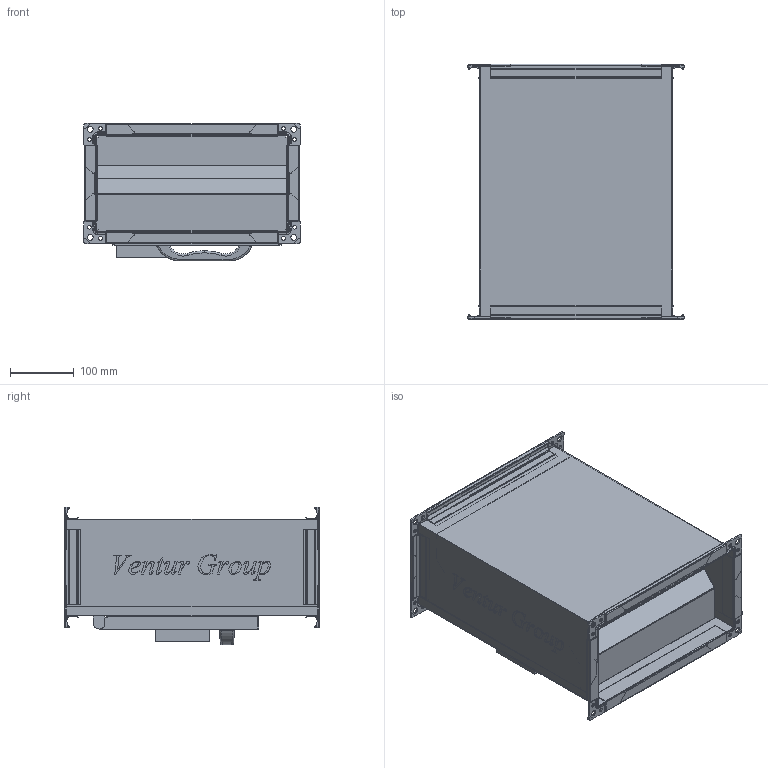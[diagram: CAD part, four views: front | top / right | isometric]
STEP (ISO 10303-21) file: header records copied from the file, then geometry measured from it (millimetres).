
FILE_DESCRIPTION(/* description */ (''),/* implementation_level */ '2;1');
FILE_NAME(/* name */ 'C:\Users\M.Janczarek\Documents\Modele uproszczone\IBF\IBF2_190S 41010010\IBF2_190S 41010010\IBF2_190S 41010010.stp',/* time_stamp */ '2018-03-21T16:39:11+01:00',/* author */ ('M.Janczarek'),/* organization */ (''),/* preprocessor_version */ 'ST-DEVELOPER v16.5',/* originating_system */ 'Autodesk Inventor 2017',/* authorisation */ '');
FILE_SCHEMA (('AUTOMOTIVE_DESIGN { 1 0 10303 214 3 1 1 }'));
Products named in the file (1): IBF2_190S 41010010
Bounding box: 339.97 x 401.6 x 216.99 mm (x, y, z)
Volume: 3233579.1 mm3; surface area: 1537807.6 mm2
Topology: 1 solids, 1 shells, 1731 faces, 4936 edges, 3168 vertices
Faces by surface type: plane 808, cylinder 477, bspline 338, torus 64, cone 28, sphere 16
Full cylindrical faces by diameter (mm): 6 x16, 9 x8, 130 x1, 190 x1
Entity records: 63391 total; most frequent: CARTESIAN_POINT 18307, ORIENTED_EDGE 9802, DIRECTION 8178, EDGE_CURVE 4901, VERTEX_POINT 3175, LINE 3048, VECTOR 3048, AXIS2_PLACEMENT_3D 2565
